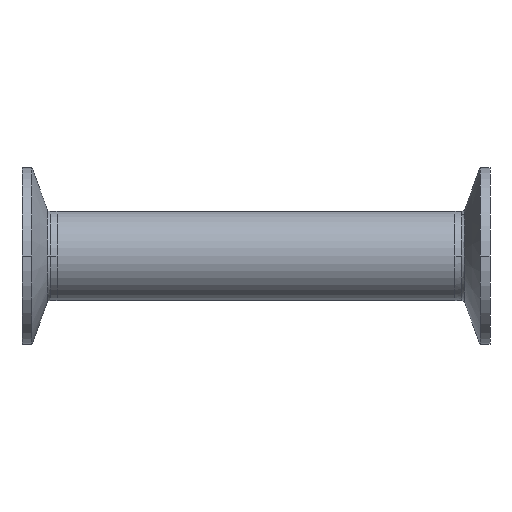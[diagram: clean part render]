
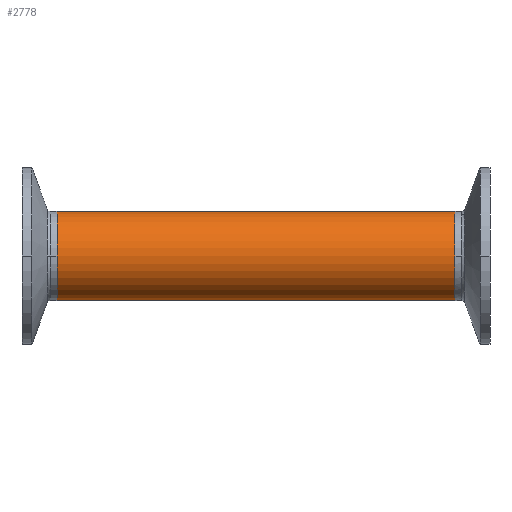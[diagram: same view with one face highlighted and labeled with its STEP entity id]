
A CAD part, front view. The second image highlights one B-rep face of the part: STEP entity #2778.
In plain terms, the highlighted cylindrical face has radius 12.7 mm (diameter 25.4 mm), a partial arc.
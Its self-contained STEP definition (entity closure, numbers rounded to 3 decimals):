
#129 = CARTESIAN_POINT ( 'NONE',  ( 56.7, 0., -12.7 ) ) ;
#333 = DIRECTION ( 'NONE',  ( -1., 0., 0. ) ) ;
#429 = CARTESIAN_POINT ( 'NONE',  ( 92.621, 0., -12.7 ) ) ;
#503 = VECTOR ( 'NONE', #1588, 1000. ) ;
#729 = CARTESIAN_POINT ( 'NONE',  ( 56.7, 0., 12.7 ) ) ;
#918 = DIRECTION ( 'NONE',  ( 0., 0., 1. ) ) ;
#1020 = CARTESIAN_POINT ( 'NONE',  ( -56.7, 0., 0. ) ) ;
#1068 = CARTESIAN_POINT ( 'NONE',  ( 56.7, 0., 0. ) ) ;
#1108 = AXIS2_PLACEMENT_3D ( 'NONE', #1020, #3126, #1310 ) ;
#1134 = VERTEX_POINT ( 'NONE', #3072 ) ;
#1179 = CIRCLE ( 'NONE', #1108, 12.7 ) ;
#1217 = EDGE_CURVE ( 'NONE', #2127, #1984, #2848, .T. ) ;
#1260 = ORIENTED_EDGE ( 'NONE', *, *, #1496, .T. ) ;
#1310 = DIRECTION ( 'NONE',  ( 0., 0., 1. ) ) ;
#1356 = DIRECTION ( 'NONE',  ( 0., 0., 1. ) ) ;
#1470 = CARTESIAN_POINT ( 'NONE',  ( 92.621, 0., 12.7 ) ) ;
#1496 = EDGE_CURVE ( 'NONE', #3529, #1134, #3291, .T. ) ;
#1588 = DIRECTION ( 'NONE',  ( -1., 0., 0. ) ) ;
#1765 = CARTESIAN_POINT ( 'NONE',  ( -56.7, 0., -12.7 ) ) ;
#1964 = AXIS2_PLACEMENT_3D ( 'NONE', #2076, #2360, #918 ) ;
#1984 = VERTEX_POINT ( 'NONE', #1765 ) ;
#2076 = CARTESIAN_POINT ( 'NONE',  ( 92.621, 0., 0. ) ) ;
#2127 = VERTEX_POINT ( 'NONE', #129 ) ;
#2294 = CIRCLE ( 'NONE', #2413, 12.7 ) ;
#2319 = CYLINDRICAL_SURFACE ( 'NONE', #1964, 12.7 ) ;
#2341 = EDGE_CURVE ( 'NONE', #2127, #3529, #2294, .T. ) ;
#2360 = DIRECTION ( 'NONE',  ( -1., 0., 0. ) ) ;
#2413 = AXIS2_PLACEMENT_3D ( 'NONE', #1068, #3177, #1356 ) ;
#2617 = FACE_OUTER_BOUND ( 'NONE', #3003, .T. ) ;
#2761 = ORIENTED_EDGE ( 'NONE', *, *, #1217, .F. ) ;
#2778 = ADVANCED_FACE ( 'NONE', ( #2617 ), #2319, .T. ) ;
#2848 = LINE ( 'NONE', #429, #503 ) ;
#2855 = EDGE_CURVE ( 'NONE', #1134, #1984, #1179, .T. ) ;
#2869 = ORIENTED_EDGE ( 'NONE', *, *, #2341, .T. ) ;
#3003 = EDGE_LOOP ( 'NONE', ( #2761, #2869, #1260, #3346 ) ) ;
#3072 = CARTESIAN_POINT ( 'NONE',  ( -56.7, 0., 12.7 ) ) ;
#3126 = DIRECTION ( 'NONE',  ( 1., 0., 0. ) ) ;
#3177 = DIRECTION ( 'NONE',  ( -1., 0., 0. ) ) ;
#3196 = VECTOR ( 'NONE', #333, 1000. ) ;
#3291 = LINE ( 'NONE', #1470, #3196 ) ;
#3346 = ORIENTED_EDGE ( 'NONE', *, *, #2855, .T. ) ;
#3529 = VERTEX_POINT ( 'NONE', #729 ) ;
